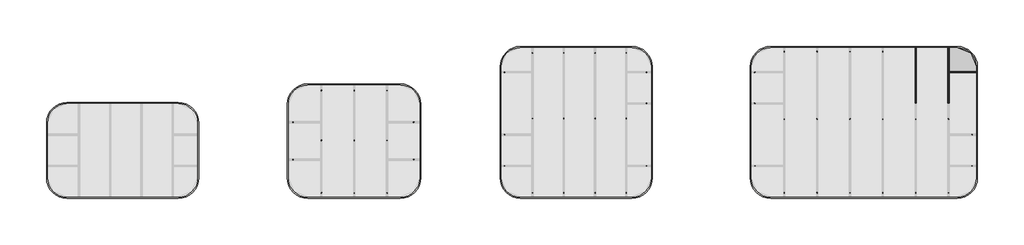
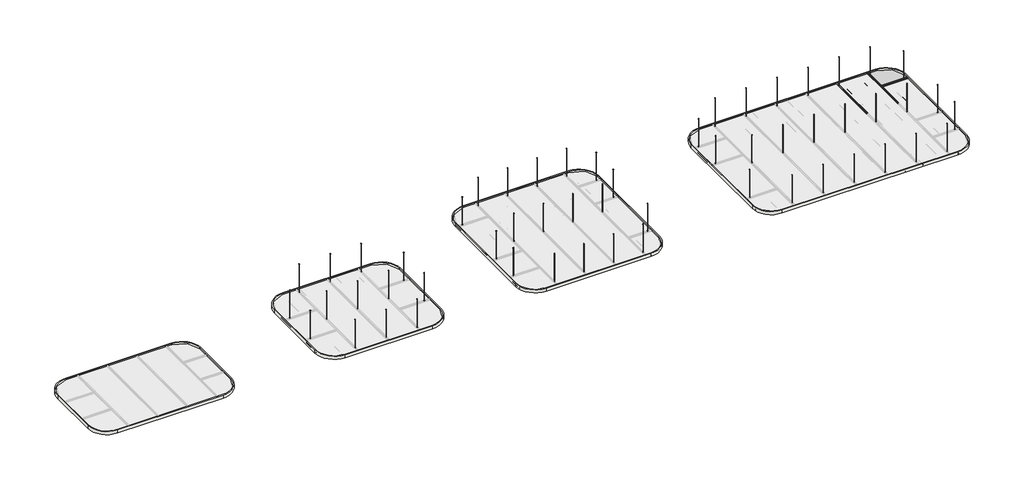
# One storey, part 4 of 4: 55 proxies, 21 members, 7 plates, 4 roofs.
"""IFC4 building model written with IfcOpenShell, lengths in millimetres."""

from ifc_helpers import new_model, si_unit, point, frame, frame_2d, origin, place, context, project, spatial, polyline, circle_curve, trimmed, segment, composite_curve, outline, extrude, transform, mapped, element, save
from components import vertical_wire_set_vertical_wire_set_3cbeecf8, circular_mullion_88ff0090, circular_mullion_51bf8350, circular_mullion_cross_tees_bf580255, circular_mullion_hub_cas_a36db33c, circular_mullion_hub_cas_a10b3b58, circular_mullion_hub_cas_675684c7, plate_2f8602be, plate_8db3f6ee, system_panel_solid_2425c893

model = new_model("IFC4")

# Units and contexts
model_context = context("Model", 3, world=origin())
ifc_project = project(units=[si_unit("LENGTHUNIT", "METRE", prefix="MILLI")], contexts=[model_context])

# Site, building, storey
site = spatial("IfcSite", under=ifc_project)
building = spatial("IfcBuilding", under=site)
storey = spatial("IfcBuildingStorey", under=building, Name="Rockfon Hub", Elevation=2000.0)

# Proxies
placement = place(None, origin())
vertical_wire_set_vertical_wire_set_shape = vertical_wire_set_vertical_wire_set_3cbeecf8(model_context)
element("IfcBuildingElementProxy", 1, Name="Vertical Wire Set : Vertical Wire Set", ObjectType="Vertical Wire Set : Vertical Wire Set", at=placement, inside=storey, context=model_context, shape_type="MappedRepresentation", body=[
    mapped(vertical_wire_set_vertical_wire_set_shape, transform((35.759258, 9492.3362115, 2087.9107625), x_axis=(0.0, -1.0, 0.0), y_axis=(1.0, 0.0, 0.0), z_axis=(0.0, 0.0, 1.0))),
])
element("IfcBuildingElementProxy", 2, Name="Vertical Wire Set : Vertical Wire Set", ObjectType="Vertical Wire Set : Vertical Wire Set", at=placement, inside=storey, context=model_context, shape_type="MappedRepresentation", body=[
    mapped(vertical_wire_set_vertical_wire_set_shape, transform((35.759258, 7892.3362115, 2087.9107625), x_axis=(0.0, -1.0, 0.0), y_axis=(1.0, 0.0, 0.0), z_axis=(0.0, 0.0, 1.0))),
])
element("IfcBuildingElementProxy", 3, Name="Vertical Wire Set : Vertical Wire Set", ObjectType="Vertical Wire Set : Vertical Wire Set", at=placement, inside=storey, context=model_context, shape_type="MappedRepresentation", body=[
    mapped(vertical_wire_set_vertical_wire_set_shape, transform((-2569.9953997, 8880.9319368, 2087.9107625), x_axis=(1.0, 0.0, 0.0), y_axis=(0.0, 1.0, 0.0), z_axis=(0.0, 0.0, 1.0))),
])
element("IfcBuildingElementProxy", 4, Name="Vertical Wire Set : Vertical Wire Set", ObjectType="Vertical Wire Set : Vertical Wire Set", at=placement, inside=storey, context=model_context, shape_type="MappedRepresentation", body=[
    mapped(vertical_wire_set_vertical_wire_set_shape, transform((-2569.9953997, 7680.8923158, 2087.9107625), x_axis=(1.0, 0.0, 0.0), y_axis=(0.0, 1.0, 0.0), z_axis=(0.0, 0.0, 1.0))),
])
element("IfcBuildingElementProxy", 5, Name="Vertical Wire Set : Vertical Wire Set", ObjectType="Vertical Wire Set : Vertical Wire Set", at=placement, inside=storey, context=model_context, shape_type="MappedRepresentation", body=[
    mapped(vertical_wire_set_vertical_wire_set_shape, transform((1290.0046003, 8880.9319368, 2087.9107625), x_axis=(1.0, 0.0, 0.0), y_axis=(0.0, 1.0, 0.0), z_axis=(0.0, 0.0, 1.0))),
])
element("IfcBuildingElementProxy", 6, Name="Vertical Wire Set : Vertical Wire Set", ObjectType="Vertical Wire Set : Vertical Wire Set", at=placement, inside=storey, context=model_context, shape_type="MappedRepresentation", body=[
    mapped(vertical_wire_set_vertical_wire_set_shape, transform((1290.0046003, 7680.8923158, 2087.9107625), x_axis=(1.0, 0.0, 0.0), y_axis=(0.0, 1.0, 0.0), z_axis=(0.0, 0.0, 1.0))),
])
element("IfcBuildingElementProxy", 7, Name="Vertical Wire Set : Vertical Wire Set", ObjectType="Vertical Wire Set : Vertical Wire Set", at=placement, inside=storey, context=model_context, shape_type="MappedRepresentation", body=[
    mapped(vertical_wire_set_vertical_wire_set_shape, transform((35.759258, 6212.3362115, 2087.9107625), x_axis=(0.0, -1.0, 0.0), y_axis=(1.0, 0.0, 0.0), z_axis=(0.0, 0.0, 1.0))),
])
element("IfcBuildingElementProxy", 8, Name="Vertical Wire Set : Vertical Wire Set", ObjectType="Vertical Wire Set : Vertical Wire Set", at=placement, inside=storey, context=model_context, shape_type="MappedRepresentation", body=[
    mapped(vertical_wire_set_vertical_wire_set_shape, transform((-1014.240742, 9492.3362115, 2087.9107625), x_axis=(0.0, -1.0, 0.0), y_axis=(1.0, 0.0, 0.0), z_axis=(0.0, 0.0, 1.0))),
])
element("IfcBuildingElementProxy", 9, Name="Vertical Wire Set : Vertical Wire Set", ObjectType="Vertical Wire Set : Vertical Wire Set", at=placement, inside=storey, context=model_context, shape_type="MappedRepresentation", body=[
    mapped(vertical_wire_set_vertical_wire_set_shape, transform((-1014.240742, 7892.3362115, 2087.9107625), x_axis=(0.0, -1.0, 0.0), y_axis=(1.0, 0.0, 0.0), z_axis=(0.0, 0.0, 1.0))),
])
element("IfcBuildingElementProxy", 10, Name="Vertical Wire Set : Vertical Wire Set", ObjectType="Vertical Wire Set : Vertical Wire Set", at=placement, inside=storey, context=model_context, shape_type="MappedRepresentation", body=[
    mapped(vertical_wire_set_vertical_wire_set_shape, transform((-1014.240742, 6212.3362115, 2087.9107625), x_axis=(0.0, -1.0, 0.0), y_axis=(1.0, 0.0, 0.0), z_axis=(0.0, 0.0, 1.0))),
])
element("IfcBuildingElementProxy", 11, Name="Vertical Wire Set : Vertical Wire Set", ObjectType="Vertical Wire Set : Vertical Wire Set", at=placement, inside=storey, context=model_context, shape_type="MappedRepresentation", body=[
    mapped(vertical_wire_set_vertical_wire_set_shape, transform((-2064.240742, 9492.3362115, 2087.9107625), x_axis=(0.0, -1.0, 0.0), y_axis=(1.0, 0.0, 0.0), z_axis=(0.0, 0.0, 1.0))),
])
element("IfcBuildingElementProxy", 12, Name="Vertical Wire Set : Vertical Wire Set", ObjectType="Vertical Wire Set : Vertical Wire Set", at=placement, inside=storey, context=model_context, shape_type="MappedRepresentation", body=[
    mapped(vertical_wire_set_vertical_wire_set_shape, transform((-2064.240742, 7892.3362115, 2087.9107625), x_axis=(0.0, -1.0, 0.0), y_axis=(1.0, 0.0, 0.0), z_axis=(0.0, 0.0, 1.0))),
])
element("IfcBuildingElementProxy", 13, Name="Vertical Wire Set : Vertical Wire Set", ObjectType="Vertical Wire Set : Vertical Wire Set", at=placement, inside=storey, context=model_context, shape_type="MappedRepresentation", body=[
    mapped(vertical_wire_set_vertical_wire_set_shape, transform((-2064.240742, 6212.3362115, 2087.9107625), x_axis=(0.0, -1.0, 0.0), y_axis=(1.0, 0.0, 0.0), z_axis=(0.0, 0.0, 1.0))),
])
element("IfcBuildingElementProxy", 14, Name="Vertical Wire Set : Vertical Wire Set", ObjectType="Vertical Wire Set : Vertical Wire Set", at=placement, inside=storey, context=model_context, shape_type="MappedRepresentation", body=[
    mapped(vertical_wire_set_vertical_wire_set_shape, transform((7685.759258, 6217.3362115, 2087.9107625), x_axis=(0.0, -1.0, 0.0), y_axis=(1.0, 0.0, 0.0), z_axis=(0.0, 0.0, 1.0))),
])
element("IfcBuildingElementProxy", 15, Name="Vertical Wire Set : Vertical Wire Set", ObjectType="Vertical Wire Set : Vertical Wire Set", at=placement, inside=storey, context=model_context, shape_type="MappedRepresentation", body=[
    mapped(vertical_wire_set_vertical_wire_set_shape, transform((4195.0046003, 8480.8634809, 2087.9107625), x_axis=(1.0, 0.0, 0.0), y_axis=(0.0, 1.0, 0.0), z_axis=(0.0, 0.0, 1.0))),
])
element("IfcBuildingElementProxy", 16, Name="Vertical Wire Set : Vertical Wire Set", ObjectType="Vertical Wire Set : Vertical Wire Set", at=placement, inside=storey, context=model_context, shape_type="MappedRepresentation", body=[
    mapped(vertical_wire_set_vertical_wire_set_shape, transform((4195.0046003, 7480.8024053, 2087.9107625), x_axis=(1.0, 0.0, 0.0), y_axis=(0.0, 1.0, 0.0), z_axis=(0.0, 0.0, 1.0))),
])
element("IfcBuildingElementProxy", 17, Name="Vertical Wire Set : Vertical Wire Set", ObjectType="Vertical Wire Set : Vertical Wire Set", at=placement, inside=storey, context=model_context, shape_type="MappedRepresentation", body=[
    mapped(vertical_wire_set_vertical_wire_set_shape, transform((4195.0046003, 10480.8944678, 2087.9107625), x_axis=(1.0, 0.0, 0.0), y_axis=(0.0, 1.0, 0.0), z_axis=(0.0, 0.0, 1.0))),
])
element("IfcBuildingElementProxy", 18, Name="Vertical Wire Set : Vertical Wire Set", ObjectType="Vertical Wire Set : Vertical Wire Set", at=placement, inside=storey, context=model_context, shape_type="MappedRepresentation", body=[
    mapped(vertical_wire_set_vertical_wire_set_shape, transform((8735.0046003, 9480.8634809, 2087.9107625), x_axis=(1.0, 0.0, 0.0), y_axis=(0.0, 1.0, 0.0), z_axis=(0.0, 0.0, 1.0))),
])
element("IfcBuildingElementProxy", 19, Name="Vertical Wire Set : Vertical Wire Set", ObjectType="Vertical Wire Set : Vertical Wire Set", at=placement, inside=storey, context=model_context, shape_type="MappedRepresentation", body=[
    mapped(vertical_wire_set_vertical_wire_set_shape, transform((8735.0046003, 7480.8024053, 2087.9107625), x_axis=(1.0, 0.0, 0.0), y_axis=(0.0, 1.0, 0.0), z_axis=(0.0, 0.0, 1.0))),
])
element("IfcBuildingElementProxy", 20, Name="Vertical Wire Set : Vertical Wire Set", ObjectType="Vertical Wire Set : Vertical Wire Set", at=placement, inside=storey, context=model_context, shape_type="MappedRepresentation", body=[
    mapped(vertical_wire_set_vertical_wire_set_shape, transform((8735.0046003, 10480.8944678, 2087.9107625), x_axis=(1.0, 0.0, 0.0), y_axis=(0.0, 1.0, 0.0), z_axis=(0.0, 0.0, 1.0))),
])
element("IfcBuildingElementProxy", 21, Name="Vertical Wire Set : Vertical Wire Set", ObjectType="Vertical Wire Set : Vertical Wire Set", at=placement, inside=storey, context=model_context, shape_type="MappedRepresentation", body=[
    mapped(vertical_wire_set_vertical_wire_set_shape, transform((6685.759258, 6217.3362115, 2087.9107625), x_axis=(0.0, -1.0, 0.0), y_axis=(1.0, 0.0, 0.0), z_axis=(0.0, 0.0, 1.0))),
])
element("IfcBuildingElementProxy", 22, Name="Vertical Wire Set : Vertical Wire Set", ObjectType="Vertical Wire Set : Vertical Wire Set", at=placement, inside=storey, context=model_context, shape_type="MappedRepresentation", body=[
    mapped(vertical_wire_set_vertical_wire_set_shape, transform((5685.759258, 6217.3362115, 2087.9107625), x_axis=(0.0, -1.0, 0.0), y_axis=(1.0, 0.0, 0.0), z_axis=(0.0, 0.0, 1.0))),
])
element("IfcBuildingElementProxy", 23, Name="Vertical Wire Set : Vertical Wire Set", ObjectType="Vertical Wire Set : Vertical Wire Set", at=placement, inside=storey, context=model_context, shape_type="MappedRepresentation", body=[
    mapped(vertical_wire_set_vertical_wire_set_shape, transform((4685.759258, 6217.3362115, 2087.9107625), x_axis=(0.0, -1.0, 0.0), y_axis=(1.0, 0.0, 0.0), z_axis=(0.0, 0.0, 1.0))),
])
element("IfcBuildingElementProxy", 24, Name="Vertical Wire Set : Vertical Wire Set", ObjectType="Vertical Wire Set : Vertical Wire Set", at=placement, inside=storey, context=model_context, shape_type="MappedRepresentation", body=[
    mapped(vertical_wire_set_vertical_wire_set_shape, transform((7685.759258, 10697.3362115, 2087.9107625), x_axis=(0.0, -1.0, 0.0), y_axis=(1.0, 0.0, 0.0), z_axis=(0.0, 0.0, 1.0))),
])
element("IfcBuildingElementProxy", 25, Name="Vertical Wire Set : Vertical Wire Set", ObjectType="Vertical Wire Set : Vertical Wire Set", at=placement, inside=storey, context=model_context, shape_type="MappedRepresentation", body=[
    mapped(vertical_wire_set_vertical_wire_set_shape, transform((6685.759258, 10697.3362115, 2087.9107625), x_axis=(0.0, -1.0, 0.0), y_axis=(1.0, 0.0, 0.0), z_axis=(0.0, 0.0, 1.0))),
])
element("IfcBuildingElementProxy", 26, Name="Vertical Wire Set : Vertical Wire Set", ObjectType="Vertical Wire Set : Vertical Wire Set", at=placement, inside=storey, context=model_context, shape_type="MappedRepresentation", body=[
    mapped(vertical_wire_set_vertical_wire_set_shape, transform((5685.759258, 10697.3362115, 2087.9107625), x_axis=(0.0, -1.0, 0.0), y_axis=(1.0, 0.0, 0.0), z_axis=(0.0, 0.0, 1.0))),
])
element("IfcBuildingElementProxy", 27, Name="Vertical Wire Set : Vertical Wire Set", ObjectType="Vertical Wire Set : Vertical Wire Set", at=placement, inside=storey, context=model_context, shape_type="MappedRepresentation", body=[
    mapped(vertical_wire_set_vertical_wire_set_shape, transform((4685.759258, 10697.3362115, 2087.9107625), x_axis=(0.0, -1.0, 0.0), y_axis=(1.0, 0.0, 0.0), z_axis=(0.0, 0.0, 1.0))),
])
element("IfcBuildingElementProxy", 28, Name="Vertical Wire Set : Vertical Wire Set", ObjectType="Vertical Wire Set : Vertical Wire Set", at=placement, inside=storey, context=model_context, shape_type="MappedRepresentation", body=[
    mapped(vertical_wire_set_vertical_wire_set_shape, transform((7685.759258, 8597.3362115, 2087.9107625), x_axis=(0.0, -1.0, 0.0), y_axis=(1.0, 0.0, 0.0), z_axis=(0.0, 0.0, 1.0))),
])
element("IfcBuildingElementProxy", 29, Name="Vertical Wire Set : Vertical Wire Set", ObjectType="Vertical Wire Set : Vertical Wire Set", at=placement, inside=storey, context=model_context, shape_type="MappedRepresentation", body=[
    mapped(vertical_wire_set_vertical_wire_set_shape, transform((6685.759258, 8597.3362115, 2087.9107625), x_axis=(0.0, -1.0, 0.0), y_axis=(1.0, 0.0, 0.0), z_axis=(0.0, 0.0, 1.0))),
])
element("IfcBuildingElementProxy", 30, Name="Vertical Wire Set : Vertical Wire Set", ObjectType="Vertical Wire Set : Vertical Wire Set", at=placement, inside=storey, context=model_context, shape_type="MappedRepresentation", body=[
    mapped(vertical_wire_set_vertical_wire_set_shape, transform((5685.759258, 8597.3362115, 2087.9107625), x_axis=(0.0, -1.0, 0.0), y_axis=(1.0, 0.0, 0.0), z_axis=(0.0, 0.0, 1.0))),
])
element("IfcBuildingElementProxy", 31, Name="Vertical Wire Set : Vertical Wire Set", ObjectType="Vertical Wire Set : Vertical Wire Set", at=placement, inside=storey, context=model_context, shape_type="MappedRepresentation", body=[
    mapped(vertical_wire_set_vertical_wire_set_shape, transform((4685.759258, 8597.3362115, 2087.9107625), x_axis=(0.0, -1.0, 0.0), y_axis=(1.0, 0.0, 0.0), z_axis=(0.0, 0.0, 1.0))),
])
element("IfcBuildingElementProxy", 32, Name="Vertical Wire Set : Vertical Wire Set", ObjectType="Vertical Wire Set : Vertical Wire Set", at=placement, inside=storey, context=model_context, shape_type="MappedRepresentation", body=[
    mapped(vertical_wire_set_vertical_wire_set_shape, transform((15885.759258, 6217.3362115, 2087.9107625), x_axis=(0.0, -1.0, 0.0), y_axis=(1.0, 0.0, 0.0), z_axis=(0.0, 0.0, 1.0))),
])
element("IfcBuildingElementProxy", 33, Name="Vertical Wire Set : Vertical Wire Set", ObjectType="Vertical Wire Set : Vertical Wire Set", at=placement, inside=storey, context=model_context, shape_type="MappedRepresentation", body=[
    mapped(vertical_wire_set_vertical_wire_set_shape, transform((12195.0046003, 7480.8923158, 2087.9107625), x_axis=(1.0, 0.0, 0.0), y_axis=(0.0, 1.0, 0.0), z_axis=(0.0, 0.0, 1.0))),
])
element("IfcBuildingElementProxy", 34, Name="Vertical Wire Set : Vertical Wire Set", ObjectType="Vertical Wire Set : Vertical Wire Set", at=placement, inside=storey, context=model_context, shape_type="MappedRepresentation", body=[
    mapped(vertical_wire_set_vertical_wire_set_shape, transform((14835.759258, 6217.3362115, 2087.9107625), x_axis=(0.0, -1.0, 0.0), y_axis=(1.0, 0.0, 0.0), z_axis=(0.0, 0.0, 1.0))),
])
element("IfcBuildingElementProxy", 35, Name="Vertical Wire Set : Vertical Wire Set", ObjectType="Vertical Wire Set : Vertical Wire Set", at=placement, inside=storey, context=model_context, shape_type="MappedRepresentation", body=[
    mapped(vertical_wire_set_vertical_wire_set_shape, transform((13785.759258, 6217.3362115, 2087.9107625), x_axis=(0.0, -1.0, 0.0), y_axis=(1.0, 0.0, 0.0), z_axis=(0.0, 0.0, 1.0))),
])
element("IfcBuildingElementProxy", 36, Name="Vertical Wire Set : Vertical Wire Set", ObjectType="Vertical Wire Set : Vertical Wire Set", at=placement, inside=storey, context=model_context, shape_type="MappedRepresentation", body=[
    mapped(vertical_wire_set_vertical_wire_set_shape, transform((12735.759258, 6217.3362115, 2087.9107625), x_axis=(0.0, -1.0, 0.0), y_axis=(1.0, 0.0, 0.0), z_axis=(0.0, 0.0, 1.0))),
])
element("IfcBuildingElementProxy", 37, Name="Vertical Wire Set : Vertical Wire Set", ObjectType="Vertical Wire Set : Vertical Wire Set", at=placement, inside=storey, context=model_context, shape_type="MappedRepresentation", body=[
    mapped(vertical_wire_set_vertical_wire_set_shape, transform((12195.0046003, 9480.8944678, 2087.9107625), x_axis=(1.0, 0.0, 0.0), y_axis=(0.0, 1.0, 0.0), z_axis=(0.0, 0.0, 1.0))),
])
element("IfcBuildingElementProxy", 38, Name="Vertical Wire Set : Vertical Wire Set", ObjectType="Vertical Wire Set : Vertical Wire Set", at=placement, inside=storey, context=model_context, shape_type="MappedRepresentation", body=[
    mapped(vertical_wire_set_vertical_wire_set_shape, transform((12195.0046003, 10480.8944678, 2087.9107625), x_axis=(1.0, 0.0, 0.0), y_axis=(0.0, 1.0, 0.0), z_axis=(0.0, 0.0, 1.0))),
])
element("IfcBuildingElementProxy", 39, Name="Vertical Wire Set : Vertical Wire Set", ObjectType="Vertical Wire Set : Vertical Wire Set", at=placement, inside=storey, context=model_context, shape_type="MappedRepresentation", body=[
    mapped(vertical_wire_set_vertical_wire_set_shape, transform((17985.759258, 6217.3362115, 2087.9107625), x_axis=(0.0, -1.0, 0.0), y_axis=(1.0, 0.0, 0.0), z_axis=(0.0, 0.0, 1.0))),
])
element("IfcBuildingElementProxy", 40, Name="Vertical Wire Set : Vertical Wire Set", ObjectType="Vertical Wire Set : Vertical Wire Set", at=placement, inside=storey, context=model_context, shape_type="MappedRepresentation", body=[
    mapped(vertical_wire_set_vertical_wire_set_shape, transform((16935.759258, 6217.3362115, 2087.9107625), x_axis=(0.0, -1.0, 0.0), y_axis=(1.0, 0.0, 0.0), z_axis=(0.0, 0.0, 1.0))),
])
element("IfcBuildingElementProxy", 41, Name="Vertical Wire Set : Vertical Wire Set", ObjectType="Vertical Wire Set : Vertical Wire Set", at=placement, inside=storey, context=model_context, shape_type="MappedRepresentation", body=[
    mapped(vertical_wire_set_vertical_wire_set_shape, transform((15885.759258, 10737.3362115, 2087.9107625), x_axis=(0.0, -1.0, 0.0), y_axis=(1.0, 0.0, 0.0), z_axis=(0.0, 0.0, 1.0))),
])
element("IfcBuildingElementProxy", 42, Name="Vertical Wire Set : Vertical Wire Set", ObjectType="Vertical Wire Set : Vertical Wire Set", at=placement, inside=storey, context=model_context, shape_type="MappedRepresentation", body=[
    mapped(vertical_wire_set_vertical_wire_set_shape, transform((14835.759258, 10737.3362115, 2087.9107625), x_axis=(0.0, -1.0, 0.0), y_axis=(1.0, 0.0, 0.0), z_axis=(0.0, 0.0, 1.0))),
])
element("IfcBuildingElementProxy", 43, Name="Vertical Wire Set : Vertical Wire Set", ObjectType="Vertical Wire Set : Vertical Wire Set", at=placement, inside=storey, context=model_context, shape_type="MappedRepresentation", body=[
    mapped(vertical_wire_set_vertical_wire_set_shape, transform((13785.759258, 10737.3362115, 2087.9107625), x_axis=(0.0, -1.0, 0.0), y_axis=(1.0, 0.0, 0.0), z_axis=(0.0, 0.0, 1.0))),
])
element("IfcBuildingElementProxy", 44, Name="Vertical Wire Set : Vertical Wire Set", ObjectType="Vertical Wire Set : Vertical Wire Set", at=placement, inside=storey, context=model_context, shape_type="MappedRepresentation", body=[
    mapped(vertical_wire_set_vertical_wire_set_shape, transform((12735.759258, 10737.3362115, 2087.9107625), x_axis=(0.0, -1.0, 0.0), y_axis=(1.0, 0.0, 0.0), z_axis=(0.0, 0.0, 1.0))),
])
element("IfcBuildingElementProxy", 45, Name="Vertical Wire Set : Vertical Wire Set", ObjectType="Vertical Wire Set : Vertical Wire Set", at=placement, inside=storey, context=model_context, shape_type="MappedRepresentation", body=[
    mapped(vertical_wire_set_vertical_wire_set_shape, transform((17985.759258, 10737.3362115, 2087.9107625), x_axis=(0.0, -1.0, 0.0), y_axis=(1.0, 0.0, 0.0), z_axis=(0.0, 0.0, 1.0))),
])
element("IfcBuildingElementProxy", 46, Name="Vertical Wire Set : Vertical Wire Set", ObjectType="Vertical Wire Set : Vertical Wire Set", at=placement, inside=storey, context=model_context, shape_type="MappedRepresentation", body=[
    mapped(vertical_wire_set_vertical_wire_set_shape, transform((16935.759258, 10737.3362115, 2087.9107625), x_axis=(0.0, -1.0, 0.0), y_axis=(1.0, 0.0, 0.0), z_axis=(0.0, 0.0, 1.0))),
])
element("IfcBuildingElementProxy", 47, Name="Vertical Wire Set : Vertical Wire Set", ObjectType="Vertical Wire Set : Vertical Wire Set", at=placement, inside=storey, context=model_context, shape_type="MappedRepresentation", body=[
    mapped(vertical_wire_set_vertical_wire_set_shape, transform((15885.759258, 8577.3362115, 2087.9107625), x_axis=(0.0, -1.0, 0.0), y_axis=(1.0, 0.0, 0.0), z_axis=(0.0, 0.0, 1.0))),
])
element("IfcBuildingElementProxy", 48, Name="Vertical Wire Set : Vertical Wire Set", ObjectType="Vertical Wire Set : Vertical Wire Set", at=placement, inside=storey, context=model_context, shape_type="MappedRepresentation", body=[
    mapped(vertical_wire_set_vertical_wire_set_shape, transform((14835.759258, 8577.3362115, 2087.9107625), x_axis=(0.0, -1.0, 0.0), y_axis=(1.0, 0.0, 0.0), z_axis=(0.0, 0.0, 1.0))),
])
element("IfcBuildingElementProxy", 49, Name="Vertical Wire Set : Vertical Wire Set", ObjectType="Vertical Wire Set : Vertical Wire Set", at=placement, inside=storey, context=model_context, shape_type="MappedRepresentation", body=[
    mapped(vertical_wire_set_vertical_wire_set_shape, transform((13785.759258, 8577.3362115, 2087.9107625), x_axis=(0.0, -1.0, 0.0), y_axis=(1.0, 0.0, 0.0), z_axis=(0.0, 0.0, 1.0))),
])
element("IfcBuildingElementProxy", 50, Name="Vertical Wire Set : Vertical Wire Set", ObjectType="Vertical Wire Set : Vertical Wire Set", at=placement, inside=storey, context=model_context, shape_type="MappedRepresentation", body=[
    mapped(vertical_wire_set_vertical_wire_set_shape, transform((12735.759258, 8577.3362115, 2087.9107625), x_axis=(0.0, -1.0, 0.0), y_axis=(1.0, 0.0, 0.0), z_axis=(0.0, 0.0, 1.0))),
])
element("IfcBuildingElementProxy", 51, Name="Vertical Wire Set : Vertical Wire Set", ObjectType="Vertical Wire Set : Vertical Wire Set", at=placement, inside=storey, context=model_context, shape_type="MappedRepresentation", body=[
    mapped(vertical_wire_set_vertical_wire_set_shape, transform((17985.759258, 8577.3362115, 2087.9107625), x_axis=(0.0, -1.0, 0.0), y_axis=(1.0, 0.0, 0.0), z_axis=(0.0, 0.0, 1.0))),
])
element("IfcBuildingElementProxy", 52, Name="Vertical Wire Set : Vertical Wire Set", ObjectType="Vertical Wire Set : Vertical Wire Set", at=placement, inside=storey, context=model_context, shape_type="MappedRepresentation", body=[
    mapped(vertical_wire_set_vertical_wire_set_shape, transform((16935.759258, 8577.3362115, 2087.9107625), x_axis=(0.0, -1.0, 0.0), y_axis=(1.0, 0.0, 0.0), z_axis=(0.0, 0.0, 1.0))),
])
element("IfcBuildingElementProxy", 53, Name="Vertical Wire Set : Vertical Wire Set", ObjectType="Vertical Wire Set : Vertical Wire Set", at=placement, inside=storey, context=model_context, shape_type="MappedRepresentation", body=[
    mapped(vertical_wire_set_vertical_wire_set_shape, transform((19140.0046003, 7480.8923158, 2087.9107625), x_axis=(1.0, 0.0, 0.0), y_axis=(0.0, 1.0, 0.0), z_axis=(0.0, 0.0, 1.0))),
])
element("IfcBuildingElementProxy", 54, Name="Vertical Wire Set : Vertical Wire Set", ObjectType="Vertical Wire Set : Vertical Wire Set", at=placement, inside=storey, context=model_context, shape_type="MappedRepresentation", body=[
    mapped(vertical_wire_set_vertical_wire_set_shape, transform((19140.0046003, 8480.8944678, 2087.9107625), x_axis=(1.0, 0.0, 0.0), y_axis=(0.0, 1.0, 0.0), z_axis=(0.0, 0.0, 1.0))),
])
element("IfcBuildingElementProxy", 55, Name="Vertical Wire Set : Vertical Wire Set", ObjectType="Vertical Wire Set : Vertical Wire Set", at=placement, inside=storey, context=model_context, shape_type="MappedRepresentation", body=[
    mapped(vertical_wire_set_vertical_wire_set_shape, transform((19140.0046003, 10480.8944678, 2087.9107625), x_axis=(1.0, 0.0, 0.0), y_axis=(0.0, 1.0, 0.0), z_axis=(0.0, 0.0, 1.0))),
])

# Members
circular_mullion_shape = circular_mullion_88ff0090(model_context)
element("IfcMember", 56, ObjectType="Circular Mullion : Main Runners", at=placement, inside=storey, context=model_context, shape_type="MappedRepresentation", body=[
    mapped(circular_mullion_shape, transform((17092.6080689, 10076.1970288, 2001.0), x_axis=(0.0, 1.0, 0.0), y_axis=(0.0, 0.0, -1.0), z_axis=(-1.0, 0.0, 0.0))),
])
element("IfcMember", 57, ObjectType="Circular Mullion : Main Runners", at=placement, inside=storey, context=model_context, shape_type="MappedRepresentation", body=[
    mapped(circular_mullion_shape, transform((17692.6080689, 10076.1970288, 2001.0), x_axis=(0.0, 1.0, 0.0), y_axis=(0.0, 0.0, -1.0), z_axis=(-1.0, 0.0, 0.0))),
])
element("IfcMember", 58, ObjectType="Circular Mullion : Main Runners", at=placement, inside=storey, context=model_context, shape_type="MappedRepresentation", body=[
    mapped(circular_mullion_shape, transform((17092.6080689, 10676.1970288, 2001.0), x_axis=(0.0, 1.0, 0.0), y_axis=(0.0, 0.0, -1.0), z_axis=(-1.0, 0.0, 0.0))),
])
element("IfcMember", 59, ObjectType="Circular Mullion : Main Runners", at=placement, inside=storey, context=model_context, shape_type="MappedRepresentation", body=[
    mapped(circular_mullion_shape, transform((17692.6080689, 10676.1970288, 2001.0), x_axis=(0.0, 1.0, 0.0), y_axis=(0.0, 0.0, -1.0), z_axis=(-1.0, 0.0, 0.0))),
])
circular_mullion_2_shape = circular_mullion_51bf8350(model_context)
element("IfcMember", 60, ObjectType="Circular Mullion : Main Runners", at=placement, inside=storey, context=model_context, shape_type="MappedRepresentation", body=[
    mapped(circular_mullion_2_shape, transform((18292.6080689, 10076.1970288, 2001.0), x_axis=(0.0, 1.0, 0.0), y_axis=(0.0, 0.0, -1.0), z_axis=(-1.0, 0.0, 0.0))),
])
element("IfcMember", 61, ObjectType="Circular Mullion : Main Runners", at=placement, inside=storey, context=model_context, shape_type="MappedRepresentation", body=[
    mapped(circular_mullion_2_shape, transform((18292.6080689, 10676.1970288, 2001.0), x_axis=(0.0, 1.0, 0.0), y_axis=(0.0, 0.0, -1.0), z_axis=(-1.0, 0.0, 0.0))),
])
circular_mullion_cross_tees_shape = circular_mullion_cross_tees_bf580255(model_context)
element("IfcMember", 62, ObjectType="Circular Mullion : Cross Tees", at=placement, inside=storey, context=model_context, shape_type="MappedRepresentation", body=[
    mapped(circular_mullion_cross_tees_shape, transform((17080.7018189, 10076.1970288, 2001.0), x_axis=(1.0, 0.0, 0.0), y_axis=(0.0, 0.0, -1.0), z_axis=(0.0, 1.0, 0.0))),
])
element("IfcMember", 63, ObjectType="Circular Mullion : Cross Tees", at=placement, inside=storey, context=model_context, shape_type="MappedRepresentation", body=[
    mapped(circular_mullion_cross_tees_shape, transform((17680.7018189, 10076.1970288, 2001.0), x_axis=(1.0, 0.0, 0.0), y_axis=(0.0, 0.0, -1.0), z_axis=(0.0, 1.0, 0.0))),
])
element("IfcMember", 64, ObjectType="Circular Mullion : Cross Tees", at=placement, inside=storey, context=model_context, shape_type="MappedRepresentation", body=[
    mapped(circular_mullion_cross_tees_shape, transform((18280.7018189, 10076.1970288, 2001.0), x_axis=(1.0, 0.0, 0.0), y_axis=(0.0, 0.0, -1.0), z_axis=(0.0, 1.0, 0.0))),
])
element("IfcMember", 65, ObjectType="Circular Mullion : Cross Tees", at=placement, inside=storey, context=model_context, shape_type="MappedRepresentation", body=[
    mapped(circular_mullion_cross_tees_shape, transform((17080.7018189, 10676.1970288, 2001.0), x_axis=(1.0, 0.0, 0.0), y_axis=(0.0, 0.0, -1.0), z_axis=(0.0, 1.0, 0.0))),
])
element("IfcMember", 66, ObjectType="Circular Mullion : Cross Tees", at=placement, inside=storey, context=model_context, shape_type="MappedRepresentation", body=[
    mapped(circular_mullion_cross_tees_shape, transform((17680.7018189, 10676.1970288, 2001.0), x_axis=(1.0, 0.0, 0.0), y_axis=(0.0, 0.0, -1.0), z_axis=(0.0, 1.0, 0.0))),
])
element("IfcMember", 67, ObjectType="Circular Mullion : Cross Tees", at=placement, inside=storey, context=model_context, shape_type="MappedRepresentation", body=[
    mapped(circular_mullion_cross_tees_shape, transform((18280.7018189, 10676.1970288, 2001.0), x_axis=(1.0, 0.0, 0.0), y_axis=(0.0, 0.0, -1.0), z_axis=(0.0, 1.0, 0.0))),
])
element("IfcMember", 68, ObjectType="Circular Mullion : Cross Tees", at=placement, inside=storey, context=model_context, shape_type="MappedRepresentation", body=[
    mapped(circular_mullion_cross_tees_shape, transform((16480.7018189, 11276.1970288, 2001.0), x_axis=(1.0, 0.0, 0.0), y_axis=(0.0, 0.0, -1.0), z_axis=(0.0, 1.0, 0.0))),
])
element("IfcMember", 69, ObjectType="Circular Mullion : Cross Tees", at=placement, inside=storey, context=model_context, shape_type="MappedRepresentation", body=[
    mapped(circular_mullion_cross_tees_shape, transform((17080.7018189, 11276.1970288, 2001.0), x_axis=(1.0, 0.0, 0.0), y_axis=(0.0, 0.0, -1.0), z_axis=(0.0, 1.0, 0.0))),
])
element("IfcMember", 70, ObjectType="Circular Mullion : Cross Tees", at=placement, inside=storey, context=model_context, shape_type="MappedRepresentation", body=[
    mapped(circular_mullion_cross_tees_shape, transform((17680.7018189, 11276.1970288, 2001.0), x_axis=(1.0, 0.0, 0.0), y_axis=(0.0, 0.0, -1.0), z_axis=(0.0, 1.0, 0.0))),
])
element("IfcMember", 71, ObjectType="Circular Mullion : Cross Tees", at=placement, inside=storey, context=model_context, shape_type="MappedRepresentation", body=[
    mapped(circular_mullion_cross_tees_shape, transform((18280.7018189, 11276.1970288, 2001.0), x_axis=(1.0, 0.0, 0.0), y_axis=(0.0, 0.0, -1.0), z_axis=(0.0, 1.0, 0.0))),
])
circular_mullion_hub_cas_shape = circular_mullion_hub_cas_a36db33c(model_context)
element("IfcMember", 72, ObjectType="Circular Mullion : HUB CAS", at=placement, inside=storey, context=model_context, shape_type="MappedRepresentation", body=[
    mapped(circular_mullion_hub_cas_shape, transform((16935.851819, 10480.9870288, 2050.0), x_axis=(1.0, 0.0, 0.0), y_axis=(0.0, 0.0, -1.0), z_axis=(0.0, 1.0, 0.0))),
])
circular_mullion_hub_cas_2_shape = circular_mullion_hub_cas_a10b3b58(model_context)
element("IfcMember", 73, ObjectType="Circular Mullion : HUB CAS", at=placement, inside=storey, context=model_context, shape_type="MappedRepresentation", body=[
    mapped(circular_mullion_hub_cas_2_shape, transform((17985.851819, 11270.9870288, 2050.0), x_axis=(1.0, 0.0, 0.0), y_axis=(0.0, 0.0, -1.0), z_axis=(0.0, 1.0, 0.0))),
])
element("IfcMember", 74, ObjectType="Circular Mullion : HUB CAS", at=placement, inside=storey, context=model_context, shape_type="MappedRepresentation", body=[
    mapped(circular_mullion_hub_cas_2_shape, transform((16935.851819, 11270.9870288, 2050.0), x_axis=(1.0, 0.0, 0.0), y_axis=(0.0, 0.0, -1.0), z_axis=(0.0, 1.0, 0.0))),
])
element("IfcMember", 75, ObjectType="Circular Mullion : HUB CAS", at=placement, inside=storey, context=model_context, shape_type="MappedRepresentation", body=[
    mapped(circular_mullion_hub_cas_shape, transform((17985.851819, 10480.9870288, 2050.0), x_axis=(1.0, 0.0, 0.0), y_axis=(0.0, 0.0, -1.0), z_axis=(0.0, 1.0, 0.0))),
])
circular_mullion_hub_cas_3_shape = circular_mullion_hub_cas_675684c7(model_context)
element("IfcMember", 76, ObjectType="Circular Mullion : HUB CAS", at=placement, inside=storey, context=model_context, shape_type="MappedRepresentation", body=[
    mapped(circular_mullion_hub_cas_3_shape, transform((18005.850743, 10480.9870288, 2050.0), x_axis=(0.0, 1.0, 0.0), y_axis=(0.0, 0.0, -1.0), z_axis=(-1.0, 0.0, 0.0))),
])

# Plates
plate_shape = plate_2f8602be(model_context)
element("IfcPlate", 77, ObjectType="Rockfon X CORNER 4 : Rockfon Blanka X", at=placement, inside=storey, context=model_context, shape_type="MappedRepresentation", body=[
    mapped(plate_shape, transform((18580.7018187, 10676.1970288, 2001.0), x_axis=(1.0, 0.0, 0.0), y_axis=(0.0, 0.0, -1.0), z_axis=(0.0, 1.0, 0.0))),
])
plate_2_shape = plate_8db3f6ee(model_context)
element("IfcPlate", 78, ObjectType="Rockfon Blanka X : Rockfon Blanka X", at=placement, inside=storey, context=model_context, shape_type="MappedRepresentation", body=[
    mapped(plate_2_shape, transform((17380.7018189, 10076.1970288, 2001.0), x_axis=(1.0, 0.0, 0.0), y_axis=(0.0, 0.0, -1.0), z_axis=(0.0, 1.0, 0.0))),
])
element("IfcPlate", 79, ObjectType="Rockfon Blanka X : Rockfon Blanka X", at=placement, inside=storey, context=model_context, shape_type="MappedRepresentation", body=[
    mapped(plate_2_shape, transform((17380.7018189, 10676.1970288, 2001.0), x_axis=(1.0, 0.0, 0.0), y_axis=(0.0, 0.0, -1.0), z_axis=(0.0, 1.0, 0.0))),
])
element("IfcPlate", 80, ObjectType="Rockfon Blanka X : Rockfon Blanka X", at=placement, inside=storey, context=model_context, shape_type="MappedRepresentation", body=[
    mapped(plate_2_shape, transform((17980.7018189, 10076.1970288, 2001.0), x_axis=(1.0, 0.0, 0.0), y_axis=(0.0, 0.0, -1.0), z_axis=(0.0, 1.0, 0.0))),
])
element("IfcPlate", 81, ObjectType="Rockfon Blanka X : Rockfon Blanka X", at=placement, inside=storey, context=model_context, shape_type="MappedRepresentation", body=[
    mapped(plate_2_shape, transform((17980.7018189, 10676.1970288, 2001.0), x_axis=(1.0, 0.0, 0.0), y_axis=(0.0, 0.0, -1.0), z_axis=(0.0, 1.0, 0.0))),
])
element("IfcPlate", 82, ObjectType="Rockfon Blanka X : Rockfon Blanka X", at=placement, inside=storey, context=model_context, shape_type="MappedRepresentation", body=[
    mapped(plate_2_shape, transform((18580.7018187, 10076.1970288, 2001.0), x_axis=(1.0, 0.0, 0.0), y_axis=(0.0, 0.0, -1.0), z_axis=(0.0, 1.0, 0.0))),
])
system_panel_solid_shape = system_panel_solid_2425c893(model_context)
element("IfcPlate", 83, ObjectType="System Panel : Solid", at=placement, inside=storey, context=model_context, shape_type="MappedRepresentation", body=[
    mapped(system_panel_solid_shape, transform((18430.8518189, 10480.9870288, 2050.0), x_axis=(1.0, 0.0, 0.0), y_axis=(0.0, 0.0, -1.0), z_axis=(0.0, 1.0, 0.0))),
])

# Roofs
element("IfcRoof", 84, ObjectType="Felt", at=placement, inside=storey, context=model_context, shape_type="SweptSolid", body=[
    extrude(outline(composite_curve([segment(trimmed(circle_curve(frame_2d((-6639.1481813, 7095.9870288)), 650.0), [point((-5989.1481813, 7095.9870288))], [point((-6639.1481813, 6445.9870288))], False, "CARTESIAN"), True, "CONTINUOUS"), segment(polyline([(-6639.1481813, 6445.9870288), (-10199.1481813, 6445.9870288)]), True, "CONTINUOUS"), segment(trimmed(circle_curve(frame_2d((-10199.1481813, 7095.9870288)), 650.0), [point((-10199.1481813, 6445.9870288))], [point((-10849.1481813, 7095.9870288))], False, "CARTESIAN"), True, "CONTINUOUS"), segment(polyline([(-10849.1481813, 7095.9870288), (-10849.1481813, 8855.9870288)]), True, "CONTINUOUS"), segment(trimmed(circle_curve(frame_2d((-10199.1481813, 8855.9870288)), 650.0), [point((-10849.1481813, 8855.9870288))], [point((-10199.1481813, 9505.9870288))], False, "CARTESIAN"), True, "CONTINUOUS"), segment(polyline([(-10199.1481813, 9505.9870288), (-6639.1481813, 9505.9870288)]), True, "CONTINUOUS"), segment(trimmed(circle_curve(frame_2d((-6639.1481813, 8855.9870288)), 650.0), [point((-6639.1481813, 9505.9870288))], [point((-5989.1481813, 8855.9870288))], False, "CARTESIAN"), True, "CONTINUOUS"), segment(polyline([(-5989.1481813, 8855.9870288), (-5989.1481813, 7095.9870288)]), True, "CONTINUOUS")], self_intersect=False), holes=[composite_curve([segment(trimmed(circle_curve(frame_2d((-10199.1481813, 7095.9870288)), 615.0), [point((-10814.1481813, 7095.9870288))], [point((-10199.1481813, 6480.9870288))], True, "CARTESIAN"), True, "CONTINUOUS"), segment(polyline([(-10199.1481813, 6480.9870288), (-6639.1481813, 6480.9870288)]), True, "CONTINUOUS"), segment(trimmed(circle_curve(frame_2d((-6639.1481813, 7095.9870288)), 615.0), [point((-6639.1481813, 6480.9870288))], [point((-6024.1481813, 7095.9870288))], True, "CARTESIAN"), True, "CONTINUOUS"), segment(polyline([(-6024.1481813, 7095.9870288), (-6024.1481813, 8855.9870288)]), True, "CONTINUOUS"), segment(trimmed(circle_curve(frame_2d((-6639.1481813, 8855.9870288)), 615.0), [point((-6024.1481813, 8855.9870288))], [point((-6639.1481813, 9470.9870288))], True, "CARTESIAN"), True, "CONTINUOUS"), segment(polyline([(-6639.1481813, 9470.9870288), (-10199.1481813, 9470.9870288)]), True, "CONTINUOUS"), segment(trimmed(circle_curve(frame_2d((-10199.1481813, 8855.9870288)), 615.0), [point((-10199.1481813, 9470.9870288))], [point((-10814.1481813, 8855.9870288))], True, "CARTESIAN"), True, "CONTINUOUS"), segment(polyline([(-10814.1481813, 8855.9870288), (-10814.1481813, 7095.9870288)]), True, "CONTINUOUS")], self_intersect=False)]), frame((0.0, 0.0, 1978.0), z_axis=(0.0, 0.0, 1.0), x_axis=(1.0, 0.0, 0.0)), (0.0, 0.0, 1.0), 110.0),
])
element("IfcRoof", 85, ObjectType="Felt", at=placement, inside=storey, context=model_context, shape_type="SweptSolid", body=[
    extrude(outline(composite_curve([segment(trimmed(circle_curve(frame_2d((460.8518187, 7095.9870288)), 650.0), [point((1110.8518187, 7095.9870288))], [point((460.8518187, 6445.9870288))], False, "CARTESIAN"), True, "CONTINUOUS"), segment(polyline([(460.8518187, 6445.9870288), (-2499.1481813, 6445.9870288)]), True, "CONTINUOUS"), segment(trimmed(circle_curve(frame_2d((-2499.1481813, 7095.9870288)), 650.0), [point((-2499.1481813, 6445.9870288))], [point((-3149.1481813, 7095.9870288))], False, "CARTESIAN"), True, "CONTINUOUS"), segment(polyline([(-3149.1481813, 7095.9870288), (-3149.1481813, 9455.9870288)]), True, "CONTINUOUS"), segment(trimmed(circle_curve(frame_2d((-2499.1481813, 9455.9870288)), 650.0), [point((-3149.1481813, 9455.9870288))], [point((-2499.1481813, 10105.9870288))], False, "CARTESIAN"), True, "CONTINUOUS"), segment(polyline([(-2499.1481813, 10105.9870288), (460.8518187, 10105.9870288)]), True, "CONTINUOUS"), segment(trimmed(circle_curve(frame_2d((460.8518187, 9455.9870288)), 650.0), [point((460.8518187, 10105.9870288))], [point((1110.8518187, 9455.9870288))], False, "CARTESIAN"), True, "CONTINUOUS"), segment(polyline([(1110.8518187, 9455.9870288), (1110.8518187, 7095.9870288)]), True, "CONTINUOUS")], self_intersect=False), holes=[composite_curve([segment(trimmed(circle_curve(frame_2d((-2499.1481813, 7095.9870288)), 615.0), [point((-3114.1481813, 7095.9870288))], [point((-2499.1481813, 6480.9870288))], True, "CARTESIAN"), True, "CONTINUOUS"), segment(polyline([(-2499.1481813, 6480.9870288), (460.8518187, 6480.9870288)]), True, "CONTINUOUS"), segment(trimmed(circle_curve(frame_2d((460.8518187, 7095.9870288)), 615.0), [point((460.8518187, 6480.9870288))], [point((1075.8518187, 7095.9870288))], True, "CARTESIAN"), True, "CONTINUOUS"), segment(polyline([(1075.8518187, 7095.9870288), (1075.8518187, 9455.9870288)]), True, "CONTINUOUS"), segment(trimmed(circle_curve(frame_2d((460.8518187, 9455.9870288)), 615.0), [point((1075.8518187, 9455.9870288))], [point((460.8518187, 10070.9870288))], True, "CARTESIAN"), True, "CONTINUOUS"), segment(polyline([(460.8518187, 10070.9870288), (-2499.1481813, 10070.9870288)]), True, "CONTINUOUS"), segment(trimmed(circle_curve(frame_2d((-2499.1481813, 9455.9870288)), 615.0), [point((-2499.1481813, 10070.9870288))], [point((-3114.1481813, 9455.9870288))], True, "CARTESIAN"), True, "CONTINUOUS"), segment(polyline([(-3114.1481813, 9455.9870288), (-3114.1481813, 7095.9870288)]), True, "CONTINUOUS")], self_intersect=False)]), frame((0.0, 0.0, 1978.0), z_axis=(0.0, 0.0, 1.0), x_axis=(1.0, 0.0, 0.0)), (0.0, 0.0, 1.0), 110.0),
])
element("IfcRoof", 86, ObjectType="Felt", at=placement, inside=storey, context=model_context, shape_type="SweptSolid", body=[
    extrude(outline(composite_curve([segment(trimmed(circle_curve(frame_2d((7860.8518187, 7095.9870288)), 650.0), [point((8510.8518187, 7095.9870288))], [point((7860.8518187, 6445.9870288))], False, "CARTESIAN"), True, "CONTINUOUS"), segment(polyline([(7860.8518187, 6445.9870288), (4300.8518187, 6445.9870288)]), True, "CONTINUOUS"), segment(trimmed(circle_curve(frame_2d((4300.8518187, 7095.9870288)), 650.0), [point((4300.8518187, 6445.9870288))], [point((3650.8518187, 7095.9870288))], False, "CARTESIAN"), True, "CONTINUOUS"), segment(polyline([(3650.8518187, 7095.9870288), (3650.8518187, 10655.9870288)]), True, "CONTINUOUS"), segment(trimmed(circle_curve(frame_2d((4300.8518187, 10655.9870288)), 650.0), [point((3650.8518187, 10655.9870288))], [point((4300.8518187, 11305.9870288))], False, "CARTESIAN"), True, "CONTINUOUS"), segment(polyline([(4300.8518187, 11305.9870288), (7860.8518187, 11305.9870288)]), True, "CONTINUOUS"), segment(trimmed(circle_curve(frame_2d((7860.8518187, 10655.9870288)), 650.0), [point((7860.8518187, 11305.9870288))], [point((8510.8518187, 10655.9870288))], False, "CARTESIAN"), True, "CONTINUOUS"), segment(polyline([(8510.8518187, 10655.9870288), (8510.8518187, 7095.9870288)]), True, "CONTINUOUS")], self_intersect=False), holes=[composite_curve([segment(trimmed(circle_curve(frame_2d((4300.8518187, 7095.9870288)), 615.0), [point((3685.8518187, 7095.9870288))], [point((4300.8518187, 6480.9870288))], True, "CARTESIAN"), True, "CONTINUOUS"), segment(polyline([(4300.8518187, 6480.9870288), (7860.8518187, 6480.9870288)]), True, "CONTINUOUS"), segment(trimmed(circle_curve(frame_2d((7860.8518187, 7095.9870288)), 615.0), [point((7860.8518187, 6480.9870288))], [point((8475.8518187, 7095.9870288))], True, "CARTESIAN"), True, "CONTINUOUS"), segment(polyline([(8475.8518187, 7095.9870288), (8475.8518187, 10655.9870288)]), True, "CONTINUOUS"), segment(trimmed(circle_curve(frame_2d((7860.8518187, 10655.9870288)), 615.0), [point((8475.8518187, 10655.9870288))], [point((7860.8518187, 11270.9870288))], True, "CARTESIAN"), True, "CONTINUOUS"), segment(polyline([(7860.8518187, 11270.9870288), (4300.8518187, 11270.9870288)]), True, "CONTINUOUS"), segment(trimmed(circle_curve(frame_2d((4300.8518187, 10655.9870288)), 615.0), [point((4300.8518187, 11270.9870288))], [point((3685.8518187, 10655.9870288))], True, "CARTESIAN"), True, "CONTINUOUS"), segment(polyline([(3685.8518187, 10655.9870288), (3685.8518187, 7095.9870288)]), True, "CONTINUOUS")], self_intersect=False)]), frame((0.0, 0.0, 1978.0), z_axis=(0.0, 0.0, 1.0), x_axis=(1.0, 0.0, 0.0)), (0.0, 0.0, 1.0), 110.0),
])
element("IfcRoof", 87, ObjectType="Felt", at=placement, inside=storey, context=model_context, shape_type="SweptSolid", body=[
    extrude(outline(composite_curve([segment(trimmed(circle_curve(frame_2d((18260.8518187, 7095.9870288)), 650.0), [point((18910.8518187, 7095.9870288))], [point((18260.8518187, 6445.9870288))], False, "CARTESIAN"), True, "CONTINUOUS"), segment(polyline([(18260.8518187, 6445.9870288), (12300.8518187, 6445.9870288)]), True, "CONTINUOUS"), segment(trimmed(circle_curve(frame_2d((12300.8518187, 7095.9870288)), 650.0), [point((12300.8518187, 6445.9870288))], [point((11650.8518187, 7095.9870288))], False, "CARTESIAN"), True, "CONTINUOUS"), segment(polyline([(11650.8518187, 7095.9870288), (11650.8518187, 10655.9870288)]), True, "CONTINUOUS"), segment(trimmed(circle_curve(frame_2d((12300.8518187, 10655.9870288)), 650.0), [point((11650.8518187, 10655.9870288))], [point((12300.8518187, 11305.9870288))], False, "CARTESIAN"), True, "CONTINUOUS"), segment(polyline([(12300.8518187, 11305.9870288), (18260.8518187, 11305.9870288)]), True, "CONTINUOUS"), segment(trimmed(circle_curve(frame_2d((18260.8518187, 10655.9870288)), 650.0), [point((18260.8518187, 11305.9870288))], [point((18910.8518187, 10655.9870288))], False, "CARTESIAN"), True, "CONTINUOUS"), segment(polyline([(18910.8518187, 10655.9870288), (18910.8518187, 7095.9870288)]), True, "CONTINUOUS")], self_intersect=False), holes=[composite_curve([segment(trimmed(circle_curve(frame_2d((12300.8518187, 7095.9870288)), 615.0), [point((11685.8518187, 7095.9870288))], [point((12300.8518187, 6480.9870288))], True, "CARTESIAN"), True, "CONTINUOUS"), segment(polyline([(12300.8518187, 6480.9870288), (18260.8518187, 6480.9870288)]), True, "CONTINUOUS"), segment(trimmed(circle_curve(frame_2d((18260.8518187, 7095.9870288)), 615.0), [point((18260.8518187, 6480.9870288))], [point((18875.8518187, 7095.9870288))], True, "CARTESIAN"), True, "CONTINUOUS"), segment(polyline([(18875.8518187, 7095.9870288), (18875.8518187, 10655.9870288)]), True, "CONTINUOUS"), segment(trimmed(circle_curve(frame_2d((18260.8518187, 10655.9870288)), 615.0), [point((18875.8518187, 10655.9870288))], [point((18260.8518187, 11270.9870288))], True, "CARTESIAN"), True, "CONTINUOUS"), segment(polyline([(18260.8518187, 11270.9870288), (12300.8518187, 11270.9870288)]), True, "CONTINUOUS"), segment(trimmed(circle_curve(frame_2d((12300.8518187, 10655.9870288)), 615.0), [point((12300.8518187, 11270.9870288))], [point((11685.8518187, 10655.9870288))], True, "CARTESIAN"), True, "CONTINUOUS"), segment(polyline([(11685.8518187, 10655.9870288), (11685.8518187, 7095.9870288)]), True, "CONTINUOUS")], self_intersect=False)]), frame((0.0, 0.0, 1978.0), z_axis=(0.0, 0.0, 1.0), x_axis=(1.0, 0.0, 0.0)), (0.0, 0.0, 1.0), 110.0),
])

save(model, "model.ifc")
